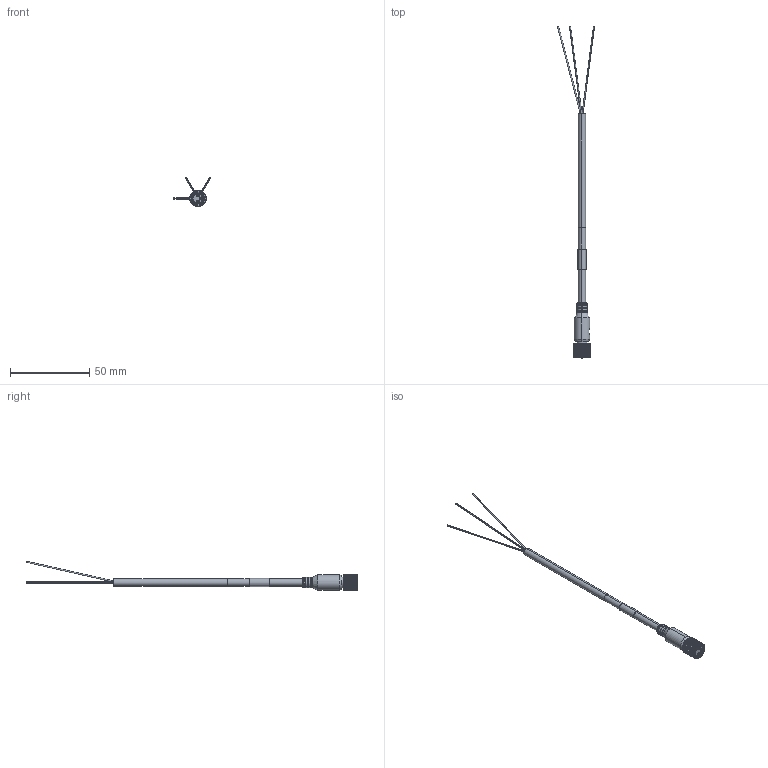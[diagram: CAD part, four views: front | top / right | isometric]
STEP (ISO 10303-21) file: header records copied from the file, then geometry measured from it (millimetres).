
FILE_DESCRIPTION((''),'2;1');
FILE_NAME('889P-B3JB-2','2015-04-23T',('20040676'),('Rockwell Automation'),'PRO/ENGINEER BY PARAMETRIC TECHNOLOGY CORPORATION, 2009140','PRO/ENGINEER BY PARAMETRIC TECHNOLOGY CORPORATION, 2009140','');
FILE_SCHEMA(('CONFIG_CONTROL_DESIGN'));
Length unit declared in the file: inch
Products named in the file (1): 889P-B3JB-2
Bounding box: 23.45 x 209.28 x 18.75 mm (x, y, z)
Volume: 4118.5 mm3; surface area: 4157.1 mm2
Topology: 1 solids, 1 shells, 373 faces, 928 edges, 574 vertices
Faces by surface type: cylinder 170, plane 113, cone 78, torus 12
Entity records: 11374 total; most frequent: CARTESIAN_POINT 2211, DIRECTION 2031, ORIENTED_EDGE 1856, EDGE_CURVE 928, AXIS2_PLACEMENT_3D 767, VERTEX_POINT 574, VECTOR 497, LINE 497
